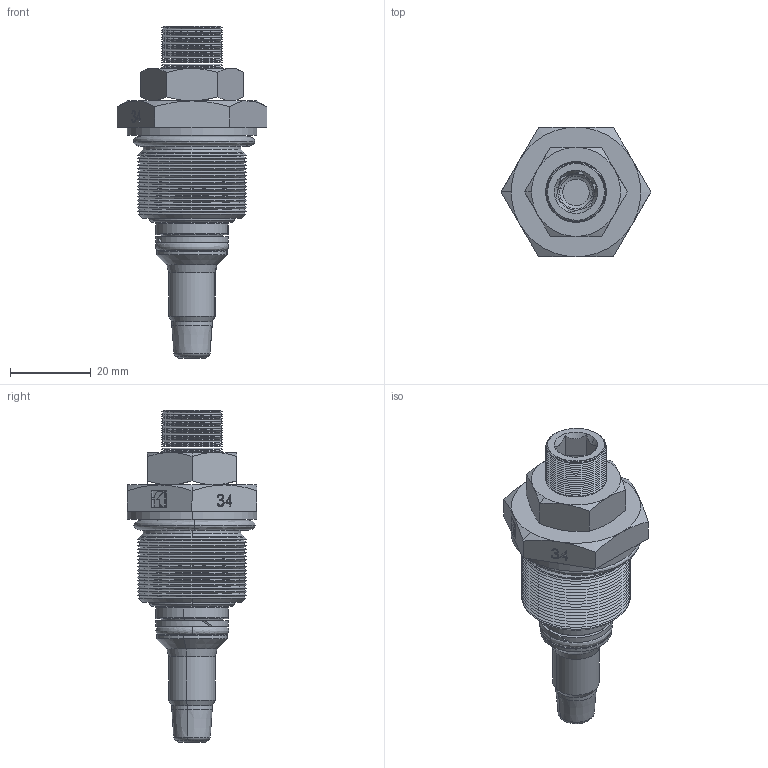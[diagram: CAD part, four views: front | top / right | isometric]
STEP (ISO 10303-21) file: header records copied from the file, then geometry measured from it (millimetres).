
FILE_DESCRIPTION (( 'STEP AP214' ), '1' );
FILE_NAME ('243-2-34.STEP', '2015-05-15T13:51:04', ( '' ), ( '' ), 'SwSTEP 2.0', 'SolidWorks 2014', '' );
FILE_SCHEMA (( 'AUTOMOTIVE_DESIGN' ));
Length unit declared in the file: millimetre
Products named in the file (1): 243-2-34
Bounding box: 36.95 x 32 x 82 mm (x, y, z)
Surface area: 10098.5 mm2 (no closed solid volume)
Topology: 0 solids, 13 shells, 381 faces, 912 edges, 544 vertices
Faces by surface type: cone 178, plane 115, bspline 50, cylinder 26, torus 12
Entity records: 17528 total; most frequent: CARTESIAN_POINT 4808, ORIENTED_EDGE 1742, DIRECTION 1730, EDGE_CURVE 912, AXIS2_PLACEMENT_3D 622, VERTEX_POINT 544, VECTOR 486, LINE 486
